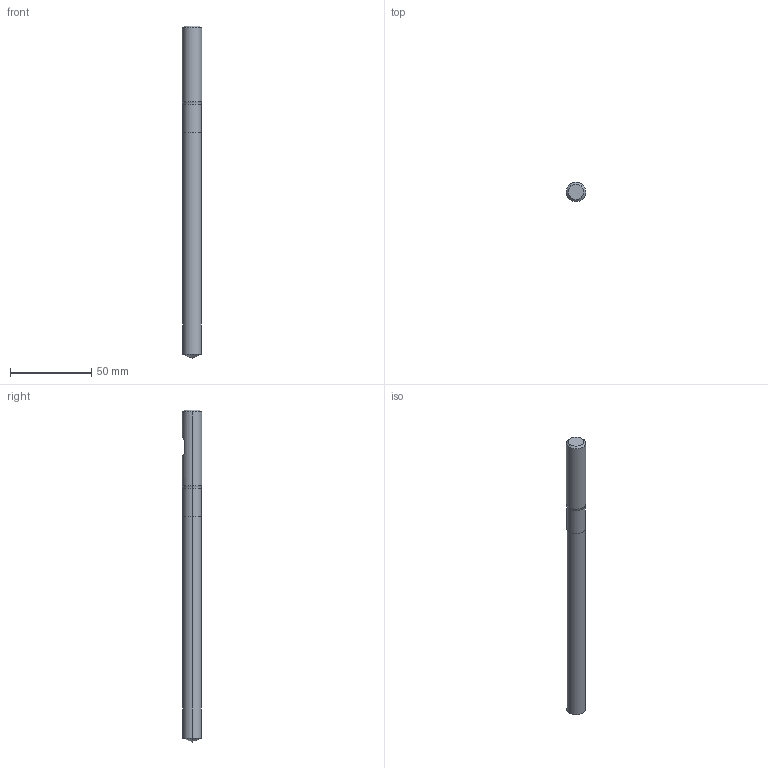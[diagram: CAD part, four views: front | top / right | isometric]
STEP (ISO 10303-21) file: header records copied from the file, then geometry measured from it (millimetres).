
FILE_DESCRIPTION (( 'STEP AP214' ), '1' );
FILE_NAME ('710.115.10_3D-model.step', '2022-02-22T17:55:54', ( '' ), ( '' ), 'SwSTEP 2.0', 'SolidWorks 2020', '' );
FILE_SCHEMA (( 'AUTOMOTIVE_DESIGN' ));
Length unit declared in the file: millimetre
Products named in the file (3): 710.115.10_3D-model; CUT-3D^Baugr160; NOCUT-3D^Baugr160
Assembly tree (2 placements, depth 2):
  710.115.10_3D-model
    CUT-3D^Baugr160
    NOCUT-3D^Baugr160
Bounding box: 12 x 12 x 204 mm (x, y, z)
Volume: 21350 mm3; surface area: 7764 mm2
Topology: 2 solids, 2 shells, 18 faces, 34 edges, 19 vertices
Faces by surface type: cylinder 6, plane 6, cone 4, torus 2
Entity records: 558 total; most frequent: DIRECTION 98, CARTESIAN_POINT 83, ORIENTED_EDGE 64, AXIS2_PLACEMENT_3D 42, EDGE_CURVE 32, VERTEX_POINT 19, EDGE_LOOP 19, FACE_OUTER_BOUND 18
